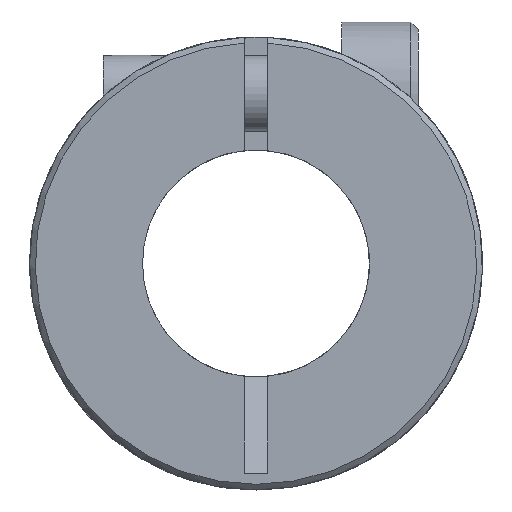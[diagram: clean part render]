
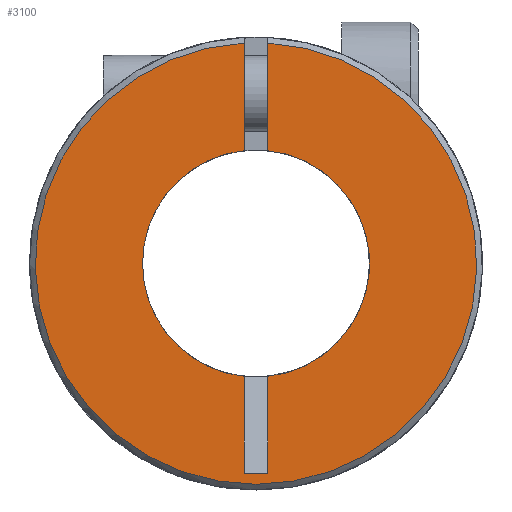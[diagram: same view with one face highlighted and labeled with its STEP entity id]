
A CAD part, front view. The second image highlights one B-rep face of the part: STEP entity #3100.
In plain terms, the highlighted planar face has unit normal (0, -1, 0).
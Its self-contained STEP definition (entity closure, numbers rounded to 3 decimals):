
#1=DIRECTION('',(0.,0.,-1.));
#2=VECTOR('',#1,2.256);
#3=CARTESIAN_POINT('',(-0.25,-9.8,4.623));
#4=LINE('',#3,#2);
#5=CARTESIAN_POINT('',(0.,-9.8,0.));
#6=DIRECTION('',(0.,1.,0.));
#7=DIRECTION('',(-1.,0.,0.));
#8=AXIS2_PLACEMENT_3D('',#5,#6,#7);
#10=CARTESIAN_POINT('',(0.,-9.8,0.));
#11=DIRECTION('',(0.,1.,0.));
#12=DIRECTION('',(-0.105,0.,-0.994));
#13=AXIS2_PLACEMENT_3D('',#10,#11,#12);
#15=DIRECTION('',(0.,0.,-1.));
#16=VECTOR('',#15,2.033);
#17=CARTESIAN_POINT('',(-0.25,-9.8,-2.367));
#18=LINE('',#17,#16);
#19=DIRECTION('',(1.,0.,0.));
#20=VECTOR('',#19,0.5);
#21=CARTESIAN_POINT('',(-0.25,-9.8,-4.4));
#22=LINE('',#21,#20);
#23=DIRECTION('',(0.,0.,-1.));
#24=VECTOR('',#23,2.033);
#25=CARTESIAN_POINT('',(0.25,-9.8,-2.367));
#26=LINE('',#25,#24);
#27=DIRECTION('',(0.,0.,-1.));
#28=VECTOR('',#27,2.256);
#29=CARTESIAN_POINT('',(0.25,-9.8,4.623));
#30=LINE('',#29,#28);
#54=CARTESIAN_POINT('',(0.,-9.8,0.));
#55=DIRECTION('',(0.,1.,0.));
#56=DIRECTION('',(0.105,0.,0.994));
#57=AXIS2_PLACEMENT_3D('',#54,#55,#56);
#2591=CARTESIAN_POINT('',(0.,-9.8,0.));
#2592=DIRECTION('',(0.,-1.,0.));
#2593=DIRECTION('',(-0.054,0.,0.999));
#2594=AXIS2_PLACEMENT_3D('',#2591,#2592,#2593);
#2757=CARTESIAN_POINT('',(-2.38,-9.8,0.));
#2758=VERTEX_POINT('',#2757);
#2832=CARTESIAN_POINT('',(-0.25,-9.8,-4.4));
#2834=VERTEX_POINT('',#2832);
#2836=CARTESIAN_POINT('',(0.25,-9.8,-4.4));
#2838=VERTEX_POINT('',#2836);
#2889=CARTESIAN_POINT('',(-0.25,-9.8,4.623));
#2890=CARTESIAN_POINT('',(-0.25,-9.8,2.367));
#2891=VERTEX_POINT('',#2889);
#2892=VERTEX_POINT('',#2890);
#2893=CARTESIAN_POINT('',(-0.25,-9.8,-2.367));
#2894=VERTEX_POINT('',#2893);
#2895=CARTESIAN_POINT('',(0.25,-9.8,4.623));
#2896=CARTESIAN_POINT('',(0.25,-9.8,2.367));
#2897=VERTEX_POINT('',#2895);
#2898=VERTEX_POINT('',#2896);
#2899=CARTESIAN_POINT('',(0.25,-9.8,-2.367));
#2900=VERTEX_POINT('',#2899);
#3075=CARTESIAN_POINT('',(0.,-9.8,0.));
#3076=DIRECTION('',(0.,1.,0.));
#3077=DIRECTION('',(1.,0.,0.));
#3078=AXIS2_PLACEMENT_3D('',#3075,#3076,#3077);
#3079=PLANE('',#3078);
#3081=ORIENTED_EDGE('',*,*,#3080,.T.);
#3083=ORIENTED_EDGE('',*,*,#3082,.F.);
#3085=ORIENTED_EDGE('',*,*,#3084,.F.);
#3087=ORIENTED_EDGE('',*,*,#3086,.T.);
#3089=ORIENTED_EDGE('',*,*,#3088,.T.);
#3091=ORIENTED_EDGE('',*,*,#3090,.F.);
#3093=ORIENTED_EDGE('',*,*,#3092,.F.);
#3095=ORIENTED_EDGE('',*,*,#3094,.F.);
#3097=ORIENTED_EDGE('',*,*,#3096,.F.);
#3098=EDGE_LOOP('',(#3081,#3083,#3085,#3087,#3089,#3091,#3093,#3095,#3097));
#3099=FACE_OUTER_BOUND('',#3098,.F.);
#3100=ADVANCED_FACE('',(#3099),#3079,.F.);
#9=CIRCLE('',#8,2.38);
#14=CIRCLE('',#13,2.38);
#58=CIRCLE('',#57,2.38);
#2595=CIRCLE('',#2594,4.63);
#3080=EDGE_CURVE('',#2891,#2892,#4,.T.);
#3082=EDGE_CURVE('',#2758,#2892,#9,.T.);
#3084=EDGE_CURVE('',#2894,#2758,#14,.T.);
#3086=EDGE_CURVE('',#2894,#2834,#18,.T.);
#3088=EDGE_CURVE('',#2834,#2838,#22,.T.);
#3090=EDGE_CURVE('',#2900,#2838,#26,.T.);
#3092=EDGE_CURVE('',#2898,#2900,#58,.T.);
#3094=EDGE_CURVE('',#2897,#2898,#30,.T.);
#3096=EDGE_CURVE('',#2891,#2897,#2595,.T.);
